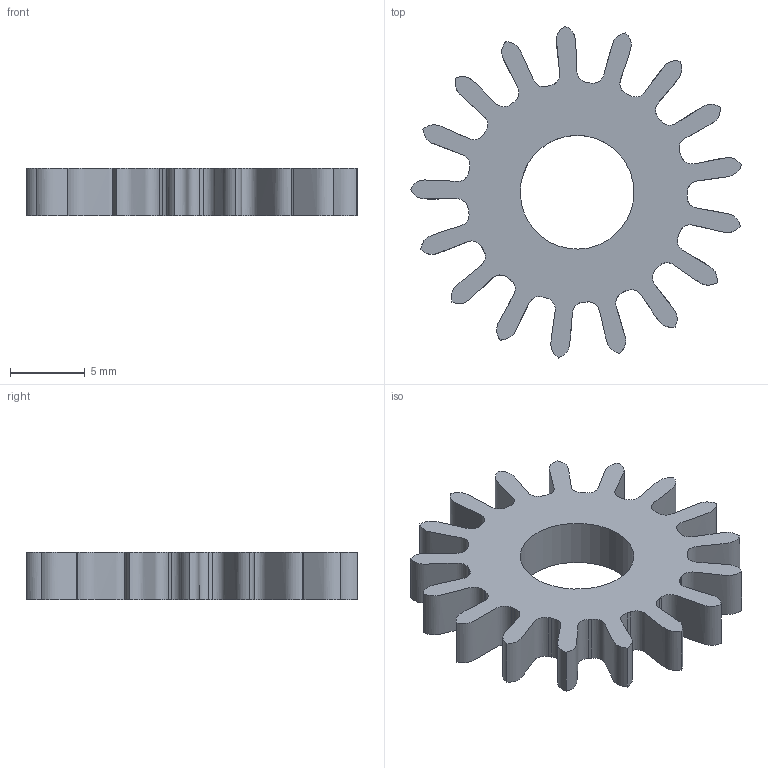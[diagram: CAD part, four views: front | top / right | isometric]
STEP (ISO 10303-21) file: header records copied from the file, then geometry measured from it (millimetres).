
FILE_DESCRIPTION(/* description */ (''),/* implementation_level */ '2;1');
FILE_NAME(/* name */ 'D:\Desktop\WatchCAdFiles\print2endTime\5.8\Solid4.stp',/* time_stamp */ '2019-05-02T17:02:59+02:00',/* author */ ('fkhad'),/* organization */ (''),/* preprocessor_version */ 'ST-DEVELOPER v17',/* originating_system */ 'Autodesk Inventor 2018',/* authorisation */ '');
FILE_SCHEMA (('AUTOMOTIVE_DESIGN { 1 0 10303 214 3 1 1 }'));
Length unit declared in the file: inch
Products named in the file (1): Solid4
Bounding box: 22.12 x 22.17 x 3.19 mm (x, y, z)
Volume: 636.7 mm3; surface area: 975.3 mm2
Topology: 1 solids, 1 shells, 54 faces, 158 edges, 106 vertices
Faces by surface type: bspline 34, cylinder 18, plane 2
Full cylindrical faces by diameter (mm): 7.598 x1
Entity records: 2514 total; most frequent: CARTESIAN_POINT 1169, ORIENTED_EDGE 316, DIRECTION 170, EDGE_CURVE 158, VERTEX_POINT 106, B_SPLINE_CURVE_WITH_KNOTS 68, AXIS2_PLACEMENT_3D 59, EDGE_LOOP 56
